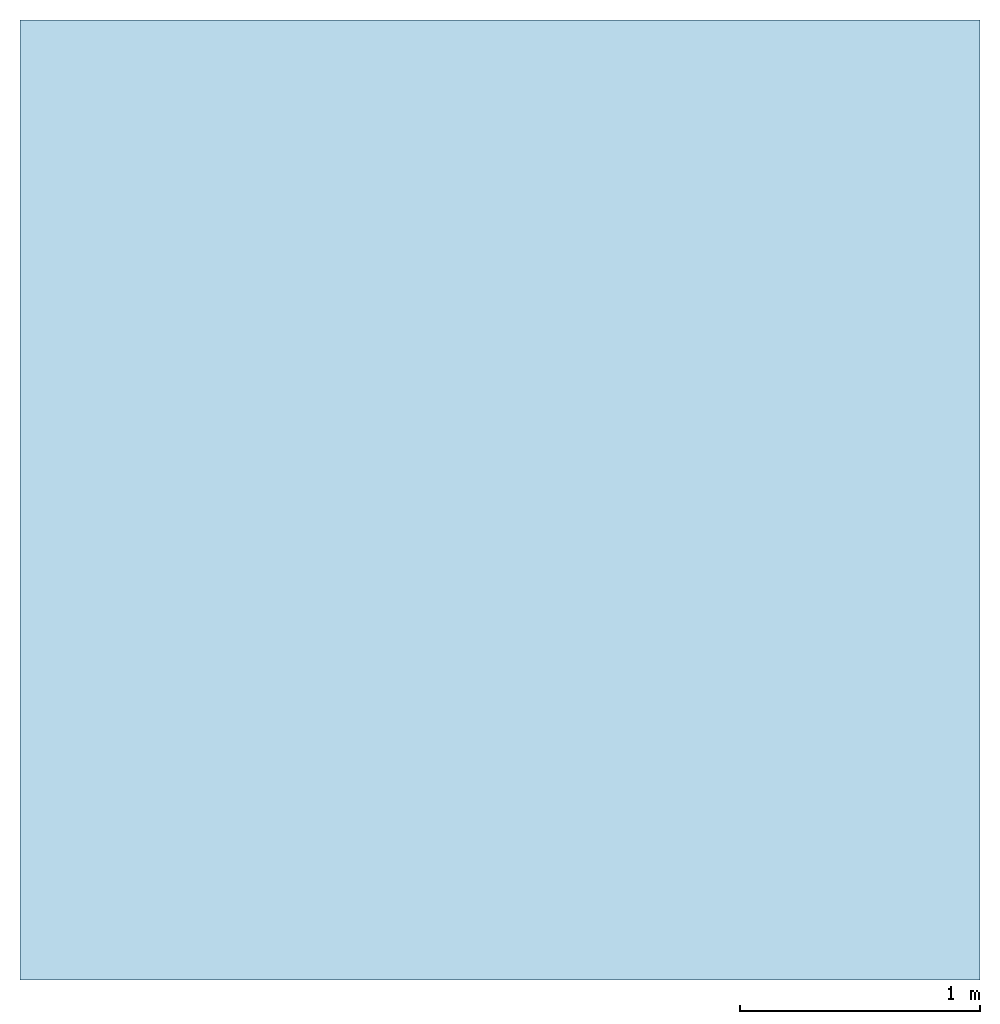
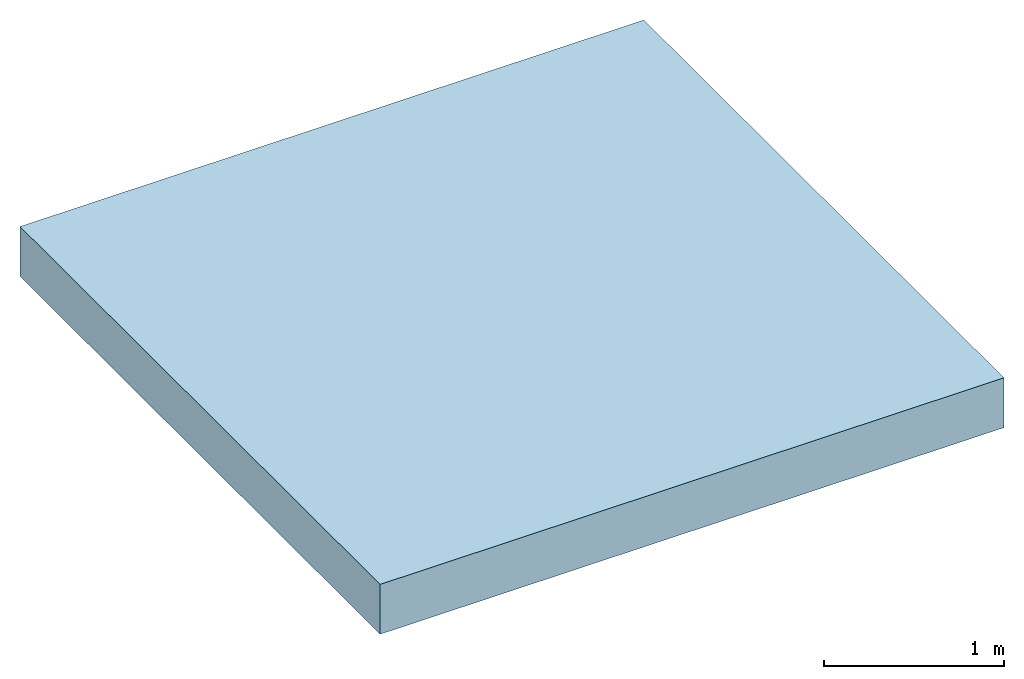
# One storey: 1 slab, 1 element without a shape of its own.
"""IFC2X3 building model written with IfcOpenShell, lengths in millimetres."""

from ifc_helpers import new_model, entity, si_unit, converted_unit, derived_unit, direction, frame, frame_2d, origin, place, context, subcontext, project, spatial, rectangle, extrude, material, layer, layer_set, element, aggregate, save


model = new_model("IFC2X3")

# Units and contexts
model_context = context("Model", 3, precision=0.01, world=origin(), true_north=direction((6.12303176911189e-17, 1.0)))
body_context = subcontext(model_context, "Body", "Model", "MODEL_VIEW")
ifc_project = project(units=[si_unit("LENGTHUNIT", "METRE", prefix="MILLI"), si_unit("AREAUNIT", "SQUARE_METRE"), si_unit("VOLUMEUNIT", "CUBIC_METRE"), converted_unit("PLANEANGLEUNIT", "DEGREE", entity("IfcRatioMeasure", 0.0174532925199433), si_unit("PLANEANGLEUNIT", "RADIAN"), dimensions=[0, 0, 0, 0, 0, 0, 0]), si_unit("MASSUNIT", "GRAM", prefix="KILO"), derived_unit("MASSDENSITYUNIT", [(si_unit("MASSUNIT", "GRAM", prefix="KILO"), 1), (si_unit("LENGTHUNIT", "METRE"), -3)]), si_unit("TIMEUNIT", "SECOND"), si_unit("FREQUENCYUNIT", "HERTZ"), si_unit("THERMODYNAMICTEMPERATUREUNIT", "DEGREE_CELSIUS"), derived_unit("THERMALTRANSMITTANCEUNIT", [(si_unit("MASSUNIT", "GRAM", prefix="KILO"), 1), (si_unit("THERMODYNAMICTEMPERATUREUNIT", "KELVIN"), -1), (si_unit("TIMEUNIT", "SECOND"), -3)]), derived_unit("VOLUMETRICFLOWRATEUNIT", [(si_unit("LENGTHUNIT", "METRE"), 3), (si_unit("TIMEUNIT", "SECOND"), -1)]), si_unit("ELECTRICCURRENTUNIT", "AMPERE"), si_unit("ELECTRICVOLTAGEUNIT", "VOLT"), si_unit("POWERUNIT", "WATT"), si_unit("FORCEUNIT", "NEWTON", prefix="KILO"), si_unit("ILLUMINANCEUNIT", "LUX"), si_unit("LUMINOUSFLUXUNIT", "LUMEN"), si_unit("LUMINOUSINTENSITYUNIT", "CANDELA"), derived_unit("USERDEFINED", [(si_unit("MASSUNIT", "GRAM", prefix="KILO"), -1), (si_unit("LENGTHUNIT", "METRE"), -2), (si_unit("TIMEUNIT", "SECOND"), 3), (si_unit("LUMINOUSFLUXUNIT", "LUMEN"), 1)]), derived_unit("LINEARVELOCITYUNIT", [(si_unit("LENGTHUNIT", "METRE"), 1), (si_unit("TIMEUNIT", "SECOND"), -1)]), si_unit("PRESSUREUNIT", "PASCAL"), derived_unit("USERDEFINED", [(si_unit("LENGTHUNIT", "METRE"), -2), (si_unit("MASSUNIT", "GRAM", prefix="KILO"), 1), (si_unit("TIMEUNIT", "SECOND"), -2)])], contexts=[model_context])

# Site, building, storey
site_placement = place(None, origin())
site = spatial("IfcSite", under=ifc_project, at=site_placement, Name="Default", CompositionType="ELEMENT")
building_placement = place(site_placement, origin())
building = spatial("IfcBuilding", under=site, at=building_placement, CompositionType="ELEMENT")
storey_placement = place(building_placement, origin())
storey = spatial("IfcBuildingStorey", under=building, at=storey_placement, Name="Nivel 1", CompositionType="ELEMENT", Elevation=0.0)

# Roof, slab
roof_placement = place(storey_placement, frame((-6544.95271651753, -3086.84289171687, 0.0)))
roof = element("IfcRoof", 1, at=roof_placement, inside=storey, Name="Cubierta básica:CubiertaPlanaConvenTrans-PeatonesPúblico_SoladoFijoBaldosaCeramica_BCTIB7SA", ObjectType="Cubierta básica:CubiertaPlanaConvenTrans-PeatonesPúblico_SoladoFijoBaldosaCeramica_BCTIB7SA")
ifc_material_1 = material(Name="Baldosas con mortero de agarre")
ifc_layer_1 = layer(ifc_material_1, 30.0)
ifc_material_2 = material(Name="IM_Poliester_Geotextil_Geofim200")
ifc_layer_2 = layer(ifc_material_2, 2.0)
ifc_material_3 = material(Name="IM_LaminaAsfaltica_Lamina_PolitaberCombi40\n(LBM 40-FP)")
ifc_layer_3 = layer(ifc_material_3, 2.0)
ifc_material_4 = material(Name="IM_LaminaAsfaltica_Lamina_PolitaberVel30\n(LBM 30-FV)")
ifc_layer_4 = layer(ifc_material_4, 2.0)
ifc_material_5 = material(Name="IM_EmulsionBituminosa_Bote_Supermul")
ifc_layer_5 = layer(ifc_material_5, 2.0)
ifc_material_6 = material(Name="Formación de pendientes")
ifc_layer_6 = layer(ifc_material_6, 50.0)
ifc_material_7 = material(Name="Soporte resistente")
ifc_layer_7 = layer(ifc_material_7, 250.0)
ifc_layer_set = layer_set([ifc_layer_1, ifc_layer_2, ifc_layer_3, ifc_layer_4, ifc_layer_5, ifc_layer_6, ifc_layer_7], Name="Cubierta básica:CubiertaPlanaConvenTrans-PeatonesPúblico_SoladoFijoBaldosaCeramica_BCTIB7SA")
slab_placement = place(roof_placement, origin())
slab = element("IfcSlab", 2, at=slab_placement, material=ifc_layer_set, Name="Cubierta básica:CubiertaPlanaConvenTrans-PeatonesPúblico_SoladoFijoBaldosaCeramica_BCTIB7SA", ObjectType="Cubierta básica:CubiertaPlanaConvenTrans-PeatonesPúblico_SoladoFijoBaldosaCeramica_BCTIB7SA", PredefinedType="ROOF", context=body_context, shape_type="SweptSolid", body=[
    extrude(rectangle(XDim=4000.0, YDim=4000.0, at=frame_2d((0.0, 0.0), x_axis=(-1.0, 0.0))), frame((2000.0, 2000.0, 0.0)), (0.0, 0.0, 1.0), 338.0),
])
aggregate(roof, [slab])

save(model, "model.ifc")
